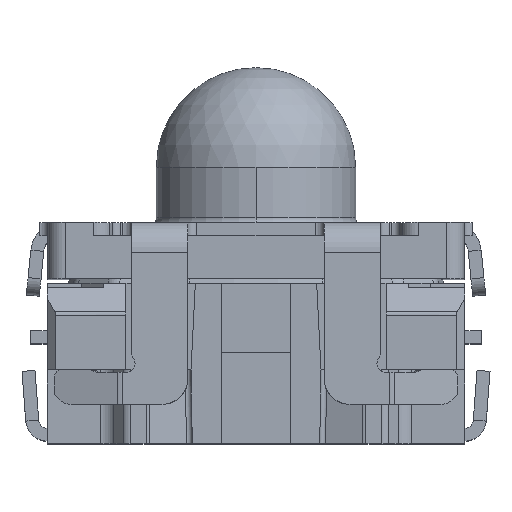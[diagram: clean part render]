
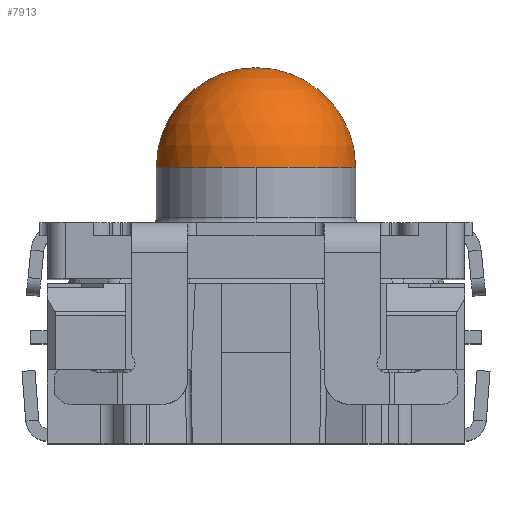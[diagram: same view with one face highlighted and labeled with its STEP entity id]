
A CAD part, top view. The second image highlights one B-rep face of the part: STEP entity #7913.
In plain terms, the highlighted spherical face has radius 1.15 mm.
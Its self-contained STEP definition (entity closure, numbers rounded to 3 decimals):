
#421 = CARTESIAN_POINT ( 'NONE',  ( 1.15, 3.19, 0. ) ) ;
#833 = VERTEX_POINT ( 'NONE', #14392 ) ;
#2259 = ORIENTED_EDGE ( 'NONE', *, *, #11423, .T. ) ;
#2850 = CIRCLE ( 'NONE', #15491, 1.15 ) ;
#3963 = DIRECTION ( 'NONE',  ( 0., 1., 0. ) ) ;
#4524 = AXIS2_PLACEMENT_3D ( 'NONE', #17082, #3963, #13448 ) ;
#4543 = DIRECTION ( 'NONE',  ( -1., 0., 0. ) ) ;
#4620 = AXIS2_PLACEMENT_3D ( 'NONE', #13102, #16319, #16511 ) ;
#4875 = CARTESIAN_POINT ( 'NONE',  ( -1.15, 3.19, 0. ) ) ;
#6544 = EDGE_CURVE ( 'NONE', #833, #17638, #19183, .T. ) ;
#7913 = ADVANCED_FACE ( 'NONE', ( #8158 ), #11172, .T. ) ;
#7970 = CARTESIAN_POINT ( 'NONE',  ( 0., 3.19, 0. ) ) ;
#8158 = FACE_OUTER_BOUND ( 'NONE', #14324, .T. ) ;
#8182 = ORIENTED_EDGE ( 'NONE', *, *, #16095, .T. ) ;
#10794 = DIRECTION ( 'NONE',  ( 1., 0., 0. ) ) ;
#11172 = SPHERICAL_SURFACE ( 'NONE', #4620, 1.15 ) ;
#11423 = EDGE_CURVE ( 'NONE', #12010, #833, #2850, .T. ) ;
#12010 = VERTEX_POINT ( 'NONE', #4875 ) ;
#12513 = DIRECTION ( 'NONE',  ( 0., 0., 1. ) ) ;
#13102 = CARTESIAN_POINT ( 'NONE',  ( 0., 3.19, 0. ) ) ;
#13448 = DIRECTION ( 'NONE',  ( -1., 0., 0. ) ) ;
#14269 = CARTESIAN_POINT ( 'NONE',  ( 0., 3.19, 0. ) ) ;
#14324 = EDGE_LOOP ( 'NONE', ( #15168, #8182, #2259 ) ) ;
#14392 = CARTESIAN_POINT ( 'NONE',  ( 0., 3.19, 1.15 ) ) ;
#15168 = ORIENTED_EDGE ( 'NONE', *, *, #6544, .T. ) ;
#15491 = AXIS2_PLACEMENT_3D ( 'NONE', #14269, #20762, #4543 ) ;
#16095 = EDGE_CURVE ( 'NONE', #17638, #12010, #17428, .T. ) ;
#16319 = DIRECTION ( 'NONE',  ( 0., 1., 0. ) ) ;
#16511 = DIRECTION ( 'NONE',  ( -1., 0., 0. ) ) ;
#17082 = CARTESIAN_POINT ( 'NONE',  ( 0., 3.19, 0. ) ) ;
#17428 = CIRCLE ( 'NONE', #20163, 1.15 ) ;
#17638 = VERTEX_POINT ( 'NONE', #421 ) ;
#19183 = CIRCLE ( 'NONE', #4524, 1.15 ) ;
#20163 = AXIS2_PLACEMENT_3D ( 'NONE', #7970, #12513, #10794 ) ;
#20762 = DIRECTION ( 'NONE',  ( 0., 1., 0. ) ) ;
